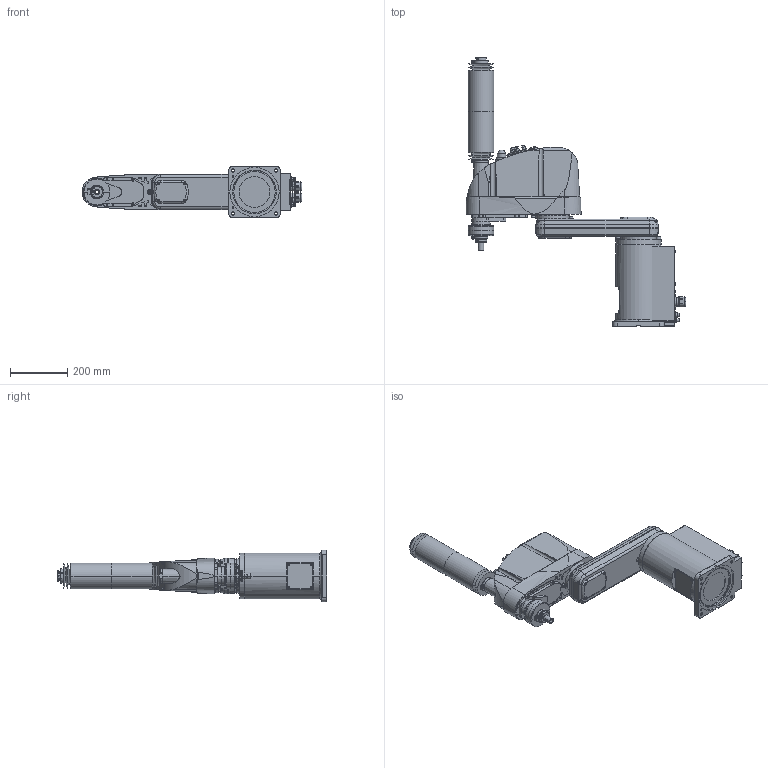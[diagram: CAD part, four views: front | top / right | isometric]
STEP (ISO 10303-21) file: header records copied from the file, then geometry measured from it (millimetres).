
FILE_DESCRIPTION( ( '' ), '1' );
FILE_NAME( '//expscmdclustefs.cadenas.external/client_exchange/iodir/jobs/output/wkb51534824_no0/STEP/G6_553C_2_03.stp', '2012-11-23T09:08:24', ( '' ), ( '' ), ' ', ' ', ' ' );
FILE_SCHEMA( ( 'CONFIG_CONTROL_DESIGN' ) );
Length unit declared in the file: millimetre
Products named in the file (8): 1; 2; 3; 4; 5; 6; 7; 8
Bounding box: 767.5 x 942 x 180 mm (x, y, z)
Volume: 22104525.2 mm3; surface area: 1152264.7 mm2
Topology: 8 solids, 8 shells, 1767 faces, 4309 edges, 2762 vertices
Faces by surface type: plane 892, cylinder 583, cone 224, torus 67, sphere 1
Entity records: 55034 total; most frequent: CARTESIAN_POINT 12067, DIRECTION 9244, ORIENTED_EDGE 8566, EDGE_CURVE 4283, AXIS2_PLACEMENT_3D 3367, VERTEX_POINT 2762, LINE 2510, VECTOR 2510
